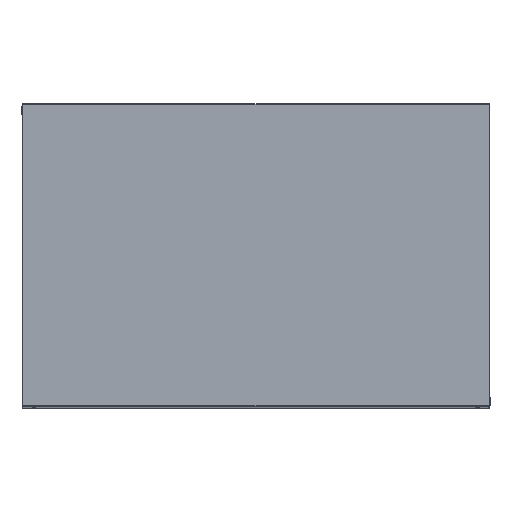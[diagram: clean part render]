
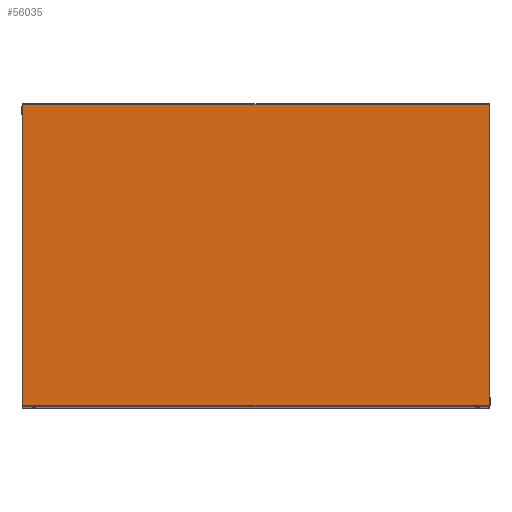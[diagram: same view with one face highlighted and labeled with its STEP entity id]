
A CAD part, top view. The second image highlights one B-rep face of the part: STEP entity #56035.
In plain terms, the highlighted planar face has unit normal (0, 0, 1).
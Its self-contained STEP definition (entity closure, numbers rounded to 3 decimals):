
#55774=CARTESIAN_POINT('',(-239.672,6009.647,936.));
#55775=VERTEX_POINT('',#55774);
#55782=CARTESIAN_POINT('',(-239.465,6009.44,936.));
#55783=VERTEX_POINT('',#55782);
#55784=CARTESIAN_POINT('',(-239.672,6009.647,936.));
#55785=DIRECTION('',(0.707,-0.707,0.0));
#55786=VECTOR('',#55785,0.293);
#55787=LINE('',#55784,#55786);
#55788=EDGE_CURVE('',#55775,#55783,#55787,.T.);
#55805=CARTESIAN_POINT('',(-656.258,6009.647,936.));
#55806=VERTEX_POINT('',#55805);
#55813=CARTESIAN_POINT('',(-656.258,6009.647,936.));
#55814=DIRECTION('',(1.0,0.0,0.0));
#55815=VECTOR('',#55814,416.586);
#55816=LINE('',#55813,#55815);
#55817=EDGE_CURVE('',#55806,#55775,#55816,.T.);
#55828=CARTESIAN_POINT('',(-239.465,5740.854,936.));
#55829=VERTEX_POINT('',#55828);
#55830=CARTESIAN_POINT('',(-239.465,6009.44,936.));
#55831=DIRECTION('',(0.0,-1.0,0.0));
#55832=VECTOR('',#55831,268.586);
#55833=LINE('',#55830,#55832);
#55834=EDGE_CURVE('',#55783,#55829,#55833,.T.);
#55860=CARTESIAN_POINT('',(-656.465,6009.44,936.));
#55861=VERTEX_POINT('',#55860);
#55868=CARTESIAN_POINT('',(-656.465,6009.44,936.));
#55869=DIRECTION('',(0.707,0.707,0.0));
#55870=VECTOR('',#55869,0.293);
#55871=LINE('',#55868,#55870);
#55872=EDGE_CURVE('',#55861,#55806,#55871,.T.);
#55891=CARTESIAN_POINT('',(-656.465,5740.854,936.));
#55892=VERTEX_POINT('',#55891);
#55899=CARTESIAN_POINT('',(-656.465,5740.854,936.));
#55900=DIRECTION('',(0.0,1.0,0.0));
#55901=VECTOR('',#55900,268.586);
#55902=LINE('',#55899,#55901);
#55903=EDGE_CURVE('',#55892,#55861,#55902,.T.);
#55922=CARTESIAN_POINT('',(-656.258,5740.647,936.));
#55923=VERTEX_POINT('',#55922);
#55930=CARTESIAN_POINT('',(-656.258,5740.647,936.));
#55931=DIRECTION('',(-0.707,0.707,0.0));
#55932=VECTOR('',#55931,0.293);
#55933=LINE('',#55930,#55932);
#55934=EDGE_CURVE('',#55923,#55892,#55933,.T.);
#55945=CARTESIAN_POINT('',(-239.672,5740.647,936.));
#55946=VERTEX_POINT('',#55945);
#55947=CARTESIAN_POINT('',(-239.672,5740.647,936.));
#55948=DIRECTION('',(-1.0,0.0,0.0));
#55949=VECTOR('',#55948,416.586);
#55950=LINE('',#55947,#55949);
#55951=EDGE_CURVE('',#55946,#55923,#55950,.T.);
#55974=CARTESIAN_POINT('',(-239.465,5740.854,936.));
#55975=DIRECTION('',(-0.707,-0.707,0.0));
#55976=VECTOR('',#55975,0.293);
#55977=LINE('',#55974,#55976);
#55978=EDGE_CURVE('',#55829,#55946,#55977,.T.);
#56020=CARTESIAN_POINT('',(-447.965,5875.147,936.));
#56021=DIRECTION('',(0.0,0.0,-1.0));
#56022=DIRECTION('',(1.0,0.0,0.0));
#56023=AXIS2_PLACEMENT_3D('',#56020,#56021,#56022);
#56024=PLANE('',#56023);
#56025=ORIENTED_EDGE('',*,*,#55788,.F.);
#56026=ORIENTED_EDGE('',*,*,#55817,.F.);
#56027=ORIENTED_EDGE('',*,*,#55872,.F.);
#56028=ORIENTED_EDGE('',*,*,#55903,.F.);
#56029=ORIENTED_EDGE('',*,*,#55934,.F.);
#56030=ORIENTED_EDGE('',*,*,#55951,.F.);
#56031=ORIENTED_EDGE('',*,*,#55978,.F.);
#56032=ORIENTED_EDGE('',*,*,#55834,.F.);
#56033=EDGE_LOOP('',(#56025,#56026,#56027,#56028,#56029,#56030,#56031,#56032));
#56034=FACE_OUTER_BOUND('',#56033,.T.);
#56035=ADVANCED_FACE('',(#56034),#56024,.F.);
